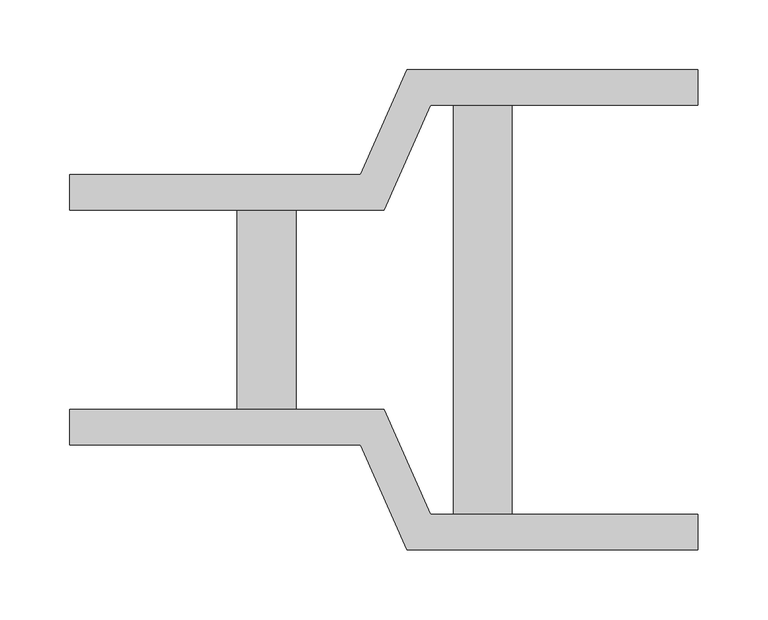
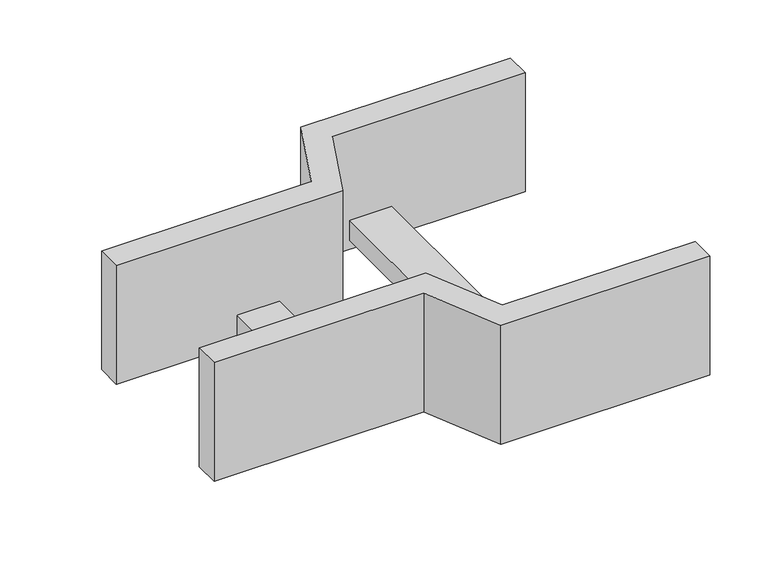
"""IFC4 building model written with IfcOpenShell, lengths in millimetres: cable carrier fitting geometry, Legrand_CableLadder_Swifts_Sapphire_Reducer-13 : Straight - Hot Dip Galvanised (after manufacture)."""

from ifc_helpers import new_model, si_unit, frame, origin, place, context, project, spatial, polyline, outline, extrude, source, transform, mapped, element, save


def cable_carrier_fitting_31077549(model_context):
    return source(origin(), model_context, "Body", "SweptSolid", [
        extrude(outline(polyline([(-225.0, 71.5), (-225.0, 97.0), (-16.4777457, 97.0), (16.6982082, 172.0), (225.0, 172.0), (225.0, 146.5), (33.3017918, 146.5), (0.1258379, 71.5), (-225.0, 71.5)])), frame((0.0, 0.0, -62.5), z_axis=(0.0, 0.0, 1.0), x_axis=(1.0, 0.0, 0.0)), (0.0, 0.0, 1.0), 125.0),
        extrude(outline(polyline([(-225.0, -97.0), (-225.0, -71.5), (0.1258379, -71.5), (33.3017918, -146.5), (225.0, -146.5), (225.0, -172.0), (16.6982082, -172.0), (-16.4777457, -97.0), (-225.0, -97.0)])), frame((0.0, 0.0, -62.5), z_axis=(0.0, 0.0, 1.0), x_axis=(1.0, 0.0, 0.0)), (0.0, 0.0, 1.0), 125.0),
        extrude(outline(polyline([(92.0, 146.5), (92.0, -146.5), (50.0, -146.5), (50.0, 146.5), (92.0, 146.5)])), frame((0.0, 0.0, -52.5), z_axis=(0.0, 0.0, 1.0), x_axis=(1.0, 0.0, 0.0)), (0.0, 0.0, 1.0), 21.0),
        extrude(outline(polyline([(-105.0, -71.5), (-105.0, 71.5), (-63.0, 71.5), (-63.0, -71.5), (-105.0, -71.5)])), frame((0.0, 0.0, -52.5), z_axis=(0.0, 0.0, 1.0), x_axis=(1.0, 0.0, 0.0)), (0.0, 0.0, 1.0), 21.0),
    ])


if __name__ == "__main__":
    model = new_model("IFC4")
    model_context = context("Model", 3, world=origin())
    ifc_project = project(units=[si_unit("LENGTHUNIT", "METRE", prefix="MILLI")], contexts=[model_context])
    site = spatial("IfcSite", under=ifc_project)
    building = spatial("IfcBuilding", under=site)
    placement = place(None, origin())
    cable_carrier_fitting_shape = cable_carrier_fitting_31077549(model_context)
    element("IfcCableCarrierFitting", 1, ObjectType="Legrand_CableLadder_Swifts_Sapphire_Reducer-13 : Straight - Hot Dip Galvanised (after manufacture)", at=placement, inside=building, context=model_context, shape_type="MappedRepresentation", body=[
        mapped(cable_carrier_fitting_shape, transform((0.0, 0.0, 0.0), x_axis=(1.0, 0.0, 0.0), y_axis=(0.0, 1.0, 0.0), z_axis=(0.0, 0.0, 1.0))),
    ])
    save(model, "model.ifc")
